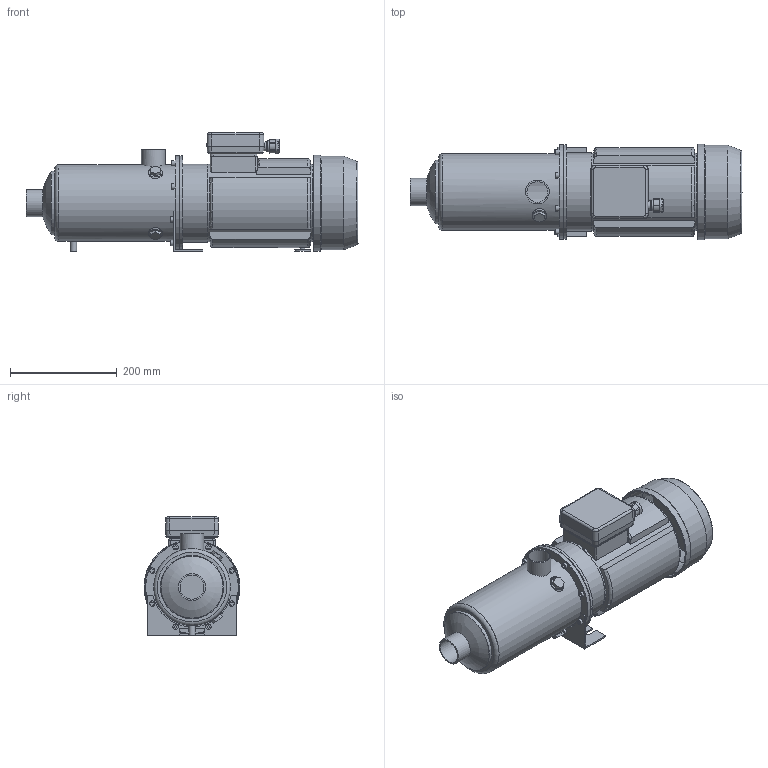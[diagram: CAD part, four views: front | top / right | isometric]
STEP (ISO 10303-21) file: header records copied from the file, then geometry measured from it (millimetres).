
FILE_DESCRIPTION(/* description */ ('Unknown'),/* implementation_level */ '2;1');
FILE_NAME(/* name */ 'MH 9 [7] T',/* time_stamp */ '2026-07-10T15:02:53+02:00',/* author */ ('Unknown'),/* organization */ ('Unknown'),/* preprocessor_version */ 'ST-DEVELOPER v20',/* originating_system */ 'Solid Edge',/* authorisation */ 'Unknown');
FILE_SCHEMA (('AUTOMOTIVE_DESIGN {1 0 10303 214 3 1 1}'));
Length unit declared in the file: millimetre
Products named in the file (10): MH 9 [7] T; Flangia motore Tonda M90; Corpo MH 9 [7]; Motore MEC 90 - T [3kW IE3]; carcassa MEC 90 [3kW IE3]; Copriventola MEC 90; Ghiera PG13,5 cod. SAV.GHI.20; Basetta MEC 80-90-100 T; Piedino MEC 90 int.90; Staffa 3-5-9 int.90
Assembly tree (9 placements, depth 3):
  MH 9 [7] T
    Flangia motore Tonda M90
    Corpo MH 9 [7]
    Motore MEC 90 - T [3kW IE3]
      carcassa MEC 90 [3kW IE3]
      Copriventola MEC 90
      Ghiera PG13,5 cod. SAV.GHI.20
      Basetta MEC 80-90-100 T
    Piedino MEC 90 int.90
    Staffa 3-5-9 int.90
Bounding box: 620.6 x 179.1 x 221.5 mm (x, y, z)
Volume: 3185907.8 mm3; surface area: 771665.6 mm2
Topology: 8 solids, 8 shells, 323 faces, 769 edges, 509 vertices
Faces by surface type: plane 181, cylinder 101, cone 20, torus 11, bspline 8, sphere 2
Full cylindrical faces by diameter (mm): 7 x4, 10 x9, 12 x1, 13 x1, 17 x1, 19.73 x1, 20.4 x1, 21 x1, 30 x1, 38.952 x1, 44.5 x1, 44.845 x1, 50.8 x1, 116.1 x1, 118.5 x1, 135 x1, 140 x3, 141.1 x1, 143.5 x1, 145 x1, 146 x1, 169.5 x1, 173.5 x1, 174.1 x2, 174.5 x1, 176.5 x2, 179.1 x1
Entity records: 10644 total; most frequent: CARTESIAN_POINT 1986, DIRECTION 1513, ORIENTED_EDGE 1354, EDGE_CURVE 677, AXIS2_PLACEMENT_3D 564, VERTEX_POINT 479, EDGE_LOOP 442, FACE_BOUND 442
